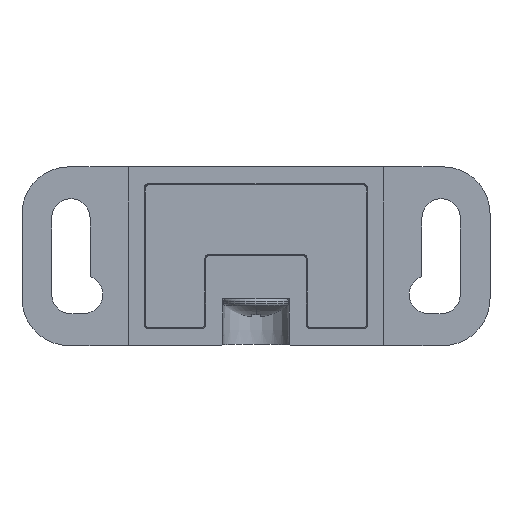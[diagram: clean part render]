
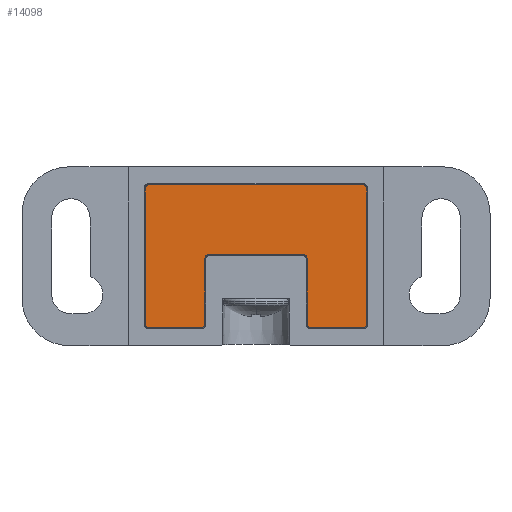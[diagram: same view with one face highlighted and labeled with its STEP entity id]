
A CAD part, front view. The second image highlights one B-rep face of the part: STEP entity #14098.
In plain terms, the highlighted planar face has unit normal (0, -1, 0).
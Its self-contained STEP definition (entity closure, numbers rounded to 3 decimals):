
#13131=CARTESIAN_POINT('',(12.531,-20.5,6.4));
#13132=DIRECTION('',(0.,-1.,0.));
#13133=DIRECTION('',(1.,0.,0.));
#13134=AXIS2_PLACEMENT_3D('',#13131,#13132,#13133);
#13136=DIRECTION('',(0.,0.,-1.));
#13137=VECTOR('',#13136,15.8);
#13138=CARTESIAN_POINT('',(13.031,-20.5,6.4));
#13139=LINE('',#13138,#13137);
#13140=CARTESIAN_POINT('',(12.531,-20.5,-9.4));
#13141=DIRECTION('',(0.,-1.,0.));
#13142=DIRECTION('',(0.,0.,-1.));
#13143=AXIS2_PLACEMENT_3D('',#13140,#13141,#13142);
#13145=DIRECTION('',(-1.,0.,0.));
#13146=VECTOR('',#13145,6.031);
#13147=CARTESIAN_POINT('',(12.531,-20.5,-9.9));
#13148=LINE('',#13147,#13146);
#13149=CARTESIAN_POINT('',(6.5,-20.5,-9.4));
#13150=DIRECTION('',(0.,-1.,0.));
#13151=DIRECTION('',(-1.,0.,0.));
#13152=AXIS2_PLACEMENT_3D('',#13149,#13150,#13151);
#13154=DIRECTION('',(0.,0.,1.));
#13155=VECTOR('',#13154,7.625);
#13156=CARTESIAN_POINT('',(6.,-20.5,-9.4));
#13157=LINE('',#13156,#13155);
#13158=DIRECTION('',(-1.,0.,0.));
#13159=VECTOR('',#13158,11.);
#13160=CARTESIAN_POINT('',(5.5,-20.5,-1.275));
#13161=LINE('',#13160,#13159);
#13162=DIRECTION('',(0.,0.,-1.));
#13163=VECTOR('',#13162,7.625);
#13164=CARTESIAN_POINT('',(-6.,-20.5,-1.775));
#13165=LINE('',#13164,#13163);
#13166=CARTESIAN_POINT('',(-6.5,-20.5,-9.4));
#13167=DIRECTION('',(0.,-1.,0.));
#13168=DIRECTION('',(0.,0.,-1.));
#13169=AXIS2_PLACEMENT_3D('',#13166,#13167,#13168);
#13171=DIRECTION('',(-1.,0.,0.));
#13172=VECTOR('',#13171,6.031);
#13173=CARTESIAN_POINT('',(-6.5,-20.5,-9.9));
#13174=LINE('',#13173,#13172);
#13175=CARTESIAN_POINT('',(-12.531,-20.5,-9.4));
#13176=DIRECTION('',(0.,-1.,0.));
#13177=DIRECTION('',(-1.,0.,0.));
#13178=AXIS2_PLACEMENT_3D('',#13175,#13176,#13177);
#13180=DIRECTION('',(0.,0.,1.));
#13181=VECTOR('',#13180,15.8);
#13182=CARTESIAN_POINT('',(-13.031,-20.5,-9.4));
#13183=LINE('',#13182,#13181);
#13184=CARTESIAN_POINT('',(-12.531,-20.5,6.4));
#13185=DIRECTION('',(0.,-1.,0.));
#13186=DIRECTION('',(0.,0.,1.));
#13187=AXIS2_PLACEMENT_3D('',#13184,#13185,#13186);
#13189=DIRECTION('',(1.,0.,0.));
#13190=VECTOR('',#13189,25.061);
#13191=CARTESIAN_POINT('',(-12.531,-20.5,6.9));
#13192=LINE('',#13191,#13190);
#13624=CARTESIAN_POINT('',(5.5,-20.5,-1.775));
#13625=DIRECTION('',(0.,1.,0.));
#13626=DIRECTION('',(0.,0.,1.));
#13627=AXIS2_PLACEMENT_3D('',#13624,#13625,#13626);
#13642=CARTESIAN_POINT('',(-5.5,-20.5,-1.775));
#13643=DIRECTION('',(0.,1.,0.));
#13644=DIRECTION('',(-1.,0.,0.));
#13645=AXIS2_PLACEMENT_3D('',#13642,#13643,#13644);
#13835=CARTESIAN_POINT('',(13.031,-20.5,6.4));
#13836=VERTEX_POINT('',#13835);
#13837=CARTESIAN_POINT('',(12.531,-20.5,6.9));
#13838=VERTEX_POINT('',#13837);
#13843=CARTESIAN_POINT('',(-12.531,-20.5,6.9));
#13844=VERTEX_POINT('',#13843);
#13845=CARTESIAN_POINT('',(-13.031,-20.5,6.4));
#13846=VERTEX_POINT('',#13845);
#13851=CARTESIAN_POINT('',(-13.031,-20.5,-9.4));
#13852=VERTEX_POINT('',#13851);
#13853=CARTESIAN_POINT('',(-12.531,-20.5,-9.9));
#13854=VERTEX_POINT('',#13853);
#13859=CARTESIAN_POINT('',(12.531,-20.5,-9.9));
#13860=VERTEX_POINT('',#13859);
#13861=CARTESIAN_POINT('',(13.031,-20.5,-9.4));
#13862=VERTEX_POINT('',#13861);
#13863=CARTESIAN_POINT('',(-6.5,-20.5,-9.9));
#13864=VERTEX_POINT('',#13863);
#13865=CARTESIAN_POINT('',(6.5,-20.5,-9.9));
#13866=VERTEX_POINT('',#13865);
#13871=CARTESIAN_POINT('',(6.,-20.5,-9.4));
#13872=VERTEX_POINT('',#13871);
#13877=CARTESIAN_POINT('',(-6.,-20.5,-9.4));
#13878=VERTEX_POINT('',#13877);
#13880=CARTESIAN_POINT('',(6.,-20.5,-1.775));
#13882=VERTEX_POINT('',#13880);
#13884=CARTESIAN_POINT('',(5.5,-20.5,-1.275));
#13886=VERTEX_POINT('',#13884);
#13888=CARTESIAN_POINT('',(-5.5,-20.5,-1.275));
#13890=VERTEX_POINT('',#13888);
#13892=CARTESIAN_POINT('',(-6.,-20.5,-1.775));
#13894=VERTEX_POINT('',#13892);
#14059=CARTESIAN_POINT('',(0.,-20.5,0.));
#14060=DIRECTION('',(0.,-1.,0.));
#14061=DIRECTION('',(0.,0.,-1.));
#14062=AXIS2_PLACEMENT_3D('',#14059,#14060,#14061);
#14063=PLANE('',#14062);
#14065=ORIENTED_EDGE('',*,*,#14064,.F.);
#14067=ORIENTED_EDGE('',*,*,#14066,.T.);
#14069=ORIENTED_EDGE('',*,*,#14068,.F.);
#14071=ORIENTED_EDGE('',*,*,#14070,.T.);
#14073=ORIENTED_EDGE('',*,*,#14072,.F.);
#14075=ORIENTED_EDGE('',*,*,#14074,.T.);
#14077=ORIENTED_EDGE('',*,*,#14076,.F.);
#14079=ORIENTED_EDGE('',*,*,#14078,.T.);
#14081=ORIENTED_EDGE('',*,*,#14080,.F.);
#14083=ORIENTED_EDGE('',*,*,#14082,.T.);
#14085=ORIENTED_EDGE('',*,*,#14084,.F.);
#14087=ORIENTED_EDGE('',*,*,#14086,.T.);
#14089=ORIENTED_EDGE('',*,*,#14088,.F.);
#14091=ORIENTED_EDGE('',*,*,#14090,.T.);
#14093=ORIENTED_EDGE('',*,*,#14092,.F.);
#14095=ORIENTED_EDGE('',*,*,#14094,.T.);
#14096=EDGE_LOOP('',(#14065,#14067,#14069,#14071,#14073,#14075,#14077,#14079,
#14081,#14083,#14085,#14087,#14089,#14091,#14093,#14095));
#14097=FACE_OUTER_BOUND('',#14096,.F.);
#13135=CIRCLE('',#13134,0.5);
#13144=CIRCLE('',#13143,0.5);
#13153=CIRCLE('',#13152,0.5);
#13170=CIRCLE('',#13169,0.5);
#13179=CIRCLE('',#13178,0.5);
#13188=CIRCLE('',#13187,0.5);
#13628=CIRCLE('',#13627,0.5);
#13646=CIRCLE('',#13645,0.5);
#14064=EDGE_CURVE('',#13836,#13838,#13135,.T.);
#14066=EDGE_CURVE('',#13836,#13862,#13139,.T.);
#14068=EDGE_CURVE('',#13860,#13862,#13144,.T.);
#14070=EDGE_CURVE('',#13860,#13866,#13148,.T.);
#14072=EDGE_CURVE('',#13872,#13866,#13153,.T.);
#14074=EDGE_CURVE('',#13872,#13882,#13157,.T.);
#14076=EDGE_CURVE('',#13886,#13882,#13628,.T.);
#14078=EDGE_CURVE('',#13886,#13890,#13161,.T.);
#14080=EDGE_CURVE('',#13894,#13890,#13646,.T.);
#14082=EDGE_CURVE('',#13894,#13878,#13165,.T.);
#14084=EDGE_CURVE('',#13864,#13878,#13170,.T.);
#14086=EDGE_CURVE('',#13864,#13854,#13174,.T.);
#14088=EDGE_CURVE('',#13852,#13854,#13179,.T.);
#14090=EDGE_CURVE('',#13852,#13846,#13183,.T.);
#14092=EDGE_CURVE('',#13844,#13846,#13188,.T.);
#14094=EDGE_CURVE('',#13844,#13838,#13192,.T.);
#14098=ADVANCED_FACE('',(#14097),#14063,.T.);
